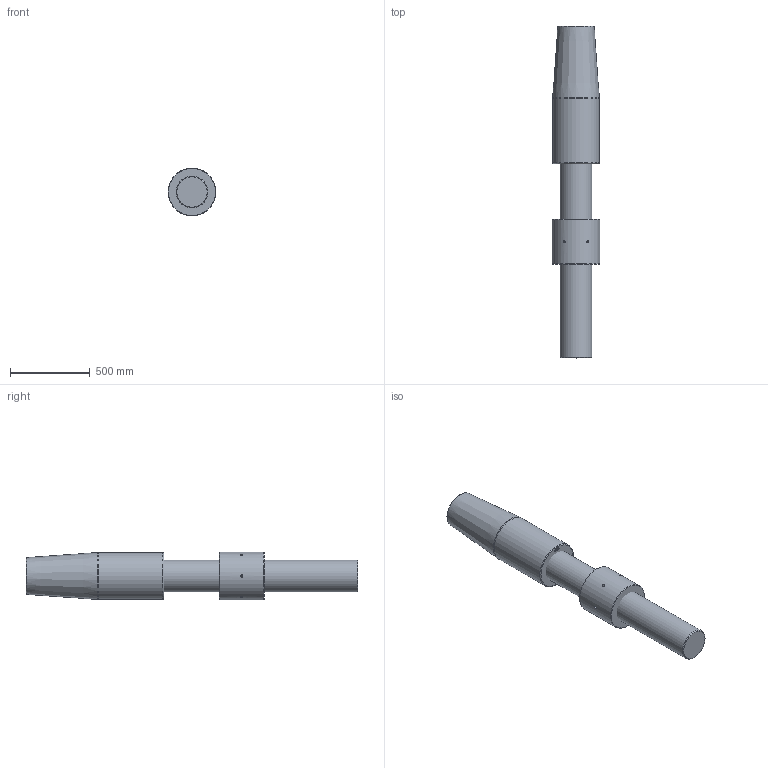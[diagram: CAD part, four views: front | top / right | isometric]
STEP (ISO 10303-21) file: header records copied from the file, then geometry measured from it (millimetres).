
FILE_DESCRIPTION(/* description */ (''),/* implementation_level */ '2;1');
FILE_NAME(/* name */ 'C:\Users\ranca\Desktop\CYM\ARRANGEMENT\CYM100 52 061 0.stp',/* time_stamp */ '2021-04-23T20:30:52+02:00',/* author */ ('ranca'),/* organization */ (''),/* preprocessor_version */ 'ST-DEVELOPER v16.13',/* originating_system */ 'Autodesk Inventor 2018',/* authorisation */ '');
FILE_SCHEMA (('AUTOMOTIVE_DESIGN { 1 0 10303 214 3 1 1 }'));
Length unit declared in the file: millimetre
Products named in the file (4): CYM100-52-061-0; CYM012-52-061-0_ROD; CYC100 52 065 0_CYL SOK_RH; CYM100-41-051-0
Assembly tree (3 placements, depth 2):
  CYM100-52-061-0
    CYM012-52-061-0_ROD
    CYC100 52 065 0_CYL SOK_RH
    CYM100-41-051-0
Bounding box: 300 x 2085 x 300 mm (x, y, z)
Volume: 119713750.4 mm3; surface area: 2272357.5 mm2
Topology: 3 solids, 3 shells, 490 faces, 1309 edges, 870 vertices
Faces by surface type: bspline 251, plane 217, cone 11, cylinder 9, torus 2
Full cylindrical faces by diameter (mm): 15 x6, 200 x1, 295 x1, 300 x1
Entity records: 16630 total; most frequent: CARTESIAN_POINT 6129, ORIENTED_EDGE 2560, DIRECTION 1281, EDGE_CURVE 1280, VERTEX_POINT 864, LINE 745, VECTOR 745, EDGE_LOOP 558
